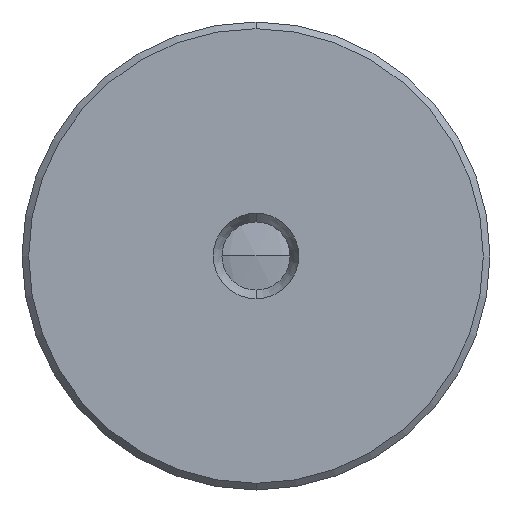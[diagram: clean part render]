
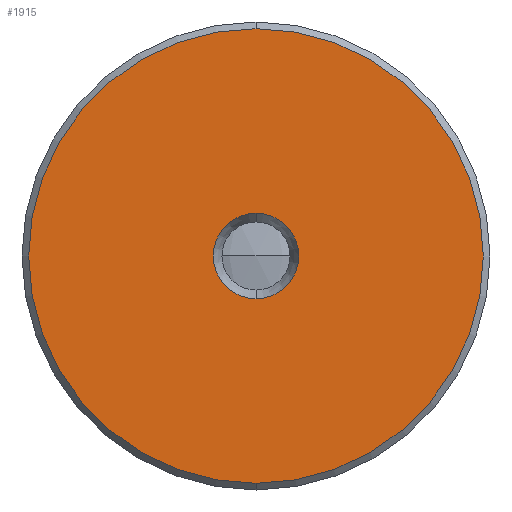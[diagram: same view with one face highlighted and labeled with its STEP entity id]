
A CAD part, left-side view. The second image highlights one B-rep face of the part: STEP entity #1915.
In plain terms, the highlighted planar face has unit normal (-1, 0, 0).
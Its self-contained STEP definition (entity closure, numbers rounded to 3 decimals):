
#16 = AXIS2_PLACEMENT_3D ( 'NONE', #342, #379, #368 ) ;
#31 = AXIS2_PLACEMENT_3D ( 'NONE', #218, #221, #219 ) ;
#47 = AXIS2_PLACEMENT_3D ( 'NONE', #295, #326, #315 ) ;
#218 = CARTESIAN_POINT ( 'NONE',  ( 4730.073, -789.601, 0. ) ) ;
#219 = DIRECTION ( 'NONE',  ( 0., 0., -1. ) ) ;
#221 = DIRECTION ( 'NONE',  ( 1., 0., 0. ) ) ;
#295 = CARTESIAN_POINT ( 'NONE',  ( 4730.073, -789.601, 0. ) ) ;
#315 = DIRECTION ( 'NONE',  ( 0., 0., -1. ) ) ;
#326 = DIRECTION ( 'NONE',  ( 1., 0., 0. ) ) ;
#342 = CARTESIAN_POINT ( 'NONE',  ( 4730.073, -789.601, 0. ) ) ;
#368 = DIRECTION ( 'NONE',  ( 0., 0., -1. ) ) ;
#379 = DIRECTION ( 'NONE',  ( 1., 0., 0. ) ) ;
#1009 = AXIS2_PLACEMENT_3D ( 'NONE', #1463, #1443, #1444 ) ;
#1050 = EDGE_CURVE ( 'NONE', #1301, #1334, #2822, .T. ) ;
#1071 = PLANE ( 'NONE',  #2729 ) ;
#1076 = DIRECTION ( 'NONE',  ( 1., 0., 0. ) ) ;
#1078 = DIRECTION ( 'NONE',  ( 0., 0., -1. ) ) ;
#1079 = CARTESIAN_POINT ( 'NONE',  ( 4730.073, -795.865, 0. ) ) ;
#1295 = VERTEX_POINT ( 'NONE', #1529 ) ;
#1301 = VERTEX_POINT ( 'NONE', #1513 ) ;
#1334 = VERTEX_POINT ( 'NONE', #1523 ) ;
#1342 = VERTEX_POINT ( 'NONE', #1561 ) ;
#1443 = DIRECTION ( 'NONE',  ( 1., 0., 0. ) ) ;
#1444 = DIRECTION ( 'NONE',  ( 0., 0., -1. ) ) ;
#1463 = CARTESIAN_POINT ( 'NONE',  ( 4730.073, -789.601, 0. ) ) ;
#1513 = CARTESIAN_POINT ( 'NONE',  ( 4730.073, -789.601, -1.277 ) ) ;
#1523 = CARTESIAN_POINT ( 'NONE',  ( 4730.073, -789.601, 1.277 ) ) ;
#1529 = CARTESIAN_POINT ( 'NONE',  ( 4730.073, -789.601, -6.8 ) ) ;
#1561 = CARTESIAN_POINT ( 'NONE',  ( 4730.073, -789.601, 6.8 ) ) ;
#1915 = ADVANCED_FACE ( 'NONE', ( #3025, #3063 ), #1071, .F. ) ;
#1950 = EDGE_CURVE ( 'NONE', #1342, #1295, #3090, .T. ) ;
#1973 = EDGE_CURVE ( 'NONE', #1295, #1342, #3155, .T. ) ;
#2005 = EDGE_CURVE ( 'NONE', #1334, #1301, #3173, .T. ) ;
#2654 = EDGE_LOOP ( 'NONE', ( #2781, #2825 ) ) ;
#2658 = EDGE_LOOP ( 'NONE', ( #2837, #2747 ) ) ;
#2729 = AXIS2_PLACEMENT_3D ( 'NONE', #1079, #1076, #1078 ) ;
#2747 = ORIENTED_EDGE ( 'NONE', *, *, #1950, .F. ) ;
#2781 = ORIENTED_EDGE ( 'NONE', *, *, #2005, .T. ) ;
#2822 = CIRCLE ( 'NONE', #1009, 1.277 ) ;
#2825 = ORIENTED_EDGE ( 'NONE', *, *, #1050, .T. ) ;
#2837 = ORIENTED_EDGE ( 'NONE', *, *, #1973, .F. ) ;
#3025 = FACE_OUTER_BOUND ( 'NONE', #2658, .T. ) ;
#3063 = FACE_BOUND ( 'NONE', #2654, .T. ) ;
#3090 = CIRCLE ( 'NONE', #31, 6.8 ) ;
#3155 = CIRCLE ( 'NONE', #47, 6.8 ) ;
#3173 = CIRCLE ( 'NONE', #16, 1.277 ) ;
